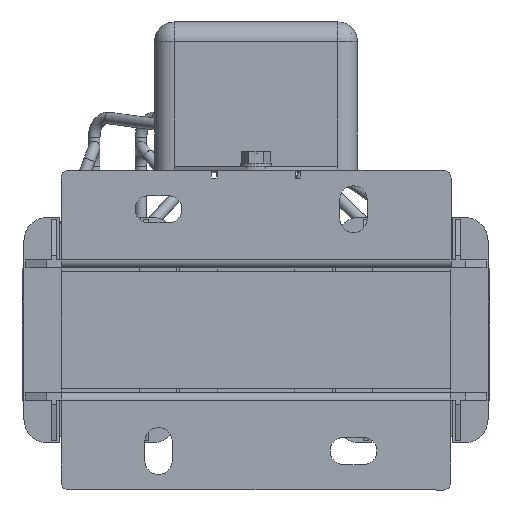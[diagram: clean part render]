
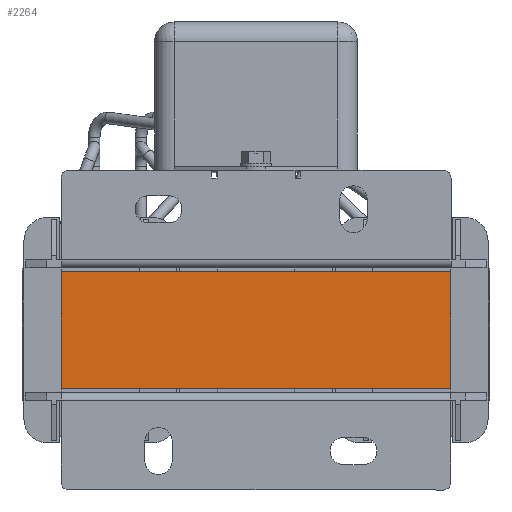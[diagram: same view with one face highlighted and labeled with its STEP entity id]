
A CAD part, front view. The second image highlights one B-rep face of the part: STEP entity #2264.
In plain terms, the highlighted planar face has unit normal (0, -1, 0).
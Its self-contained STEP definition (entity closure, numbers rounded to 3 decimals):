
#2264=ADVANCED_FACE('',(#13707),#13709,.F.);
#13707=FACE_BOUND('',#13708,.T.);
#13708=EDGE_LOOP('',(#23153,#23154,#23155,#23156));
#13709=PLANE('',#13710);
#13710=AXIS2_PLACEMENT_3D('',#13711,#13712,#13713);
#13711=CARTESIAN_POINT('',(-50.,-51.,30.));
#13712=DIRECTION('',(0.,1.,0.));
#13713=DIRECTION('',(0.,0.,1.));
#23153=ORIENTED_EDGE('',*,*,#29052,.T.);
#23154=ORIENTED_EDGE('',*,*,#29064,.F.);
#23155=ORIENTED_EDGE('',*,*,#29042,.F.);
#23156=ORIENTED_EDGE('',*,*,#29066,.T.);
#29042=EDGE_CURVE('',#32023,#32018,#32025,.T.);
#29052=EDGE_CURVE('',#32045,#32042,#32046,.T.);
#29064=EDGE_CURVE('',#32018,#32042,#32067,.T.);
#29066=EDGE_CURVE('',#32023,#32045,#32069,.T.);
#32018=VERTEX_POINT('',#37073);
#32023=VERTEX_POINT('',#37082);
#32025=LINE('',#37086,#37087);
#32042=VERTEX_POINT('',#37121);
#32045=VERTEX_POINT('',#37126);
#32046=LINE('',#37127,#37128);
#32067=LINE('',#37172,#37173);
#32069=LINE('',#37178,#37179);
#37073=CARTESIAN_POINT('',(50.,-51.,30.));
#37082=CARTESIAN_POINT('',(-50.,-51.,30.));
#37086=CARTESIAN_POINT('',(-50.,-51.,30.));
#37087=VECTOR('',#37088,1.);
#37088=DIRECTION('',(1.,0.,0.));
#37121=CARTESIAN_POINT('',(50.,-51.,0.));
#37126=CARTESIAN_POINT('',(-50.,-51.,0.));
#37127=CARTESIAN_POINT('',(-50.,-51.,0.));
#37128=VECTOR('',#37129,1.);
#37129=DIRECTION('',(1.,0.,0.));
#37172=CARTESIAN_POINT('',(50.,-51.,30.));
#37173=VECTOR('',#37174,1.);
#37174=DIRECTION('',(0.,0.,-1.));
#37178=CARTESIAN_POINT('',(-50.,-51.,30.));
#37179=VECTOR('',#37180,1.);
#37180=DIRECTION('',(0.,0.,-1.));
